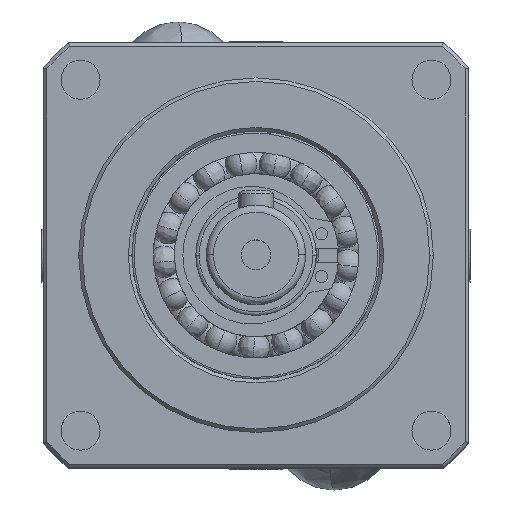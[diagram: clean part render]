
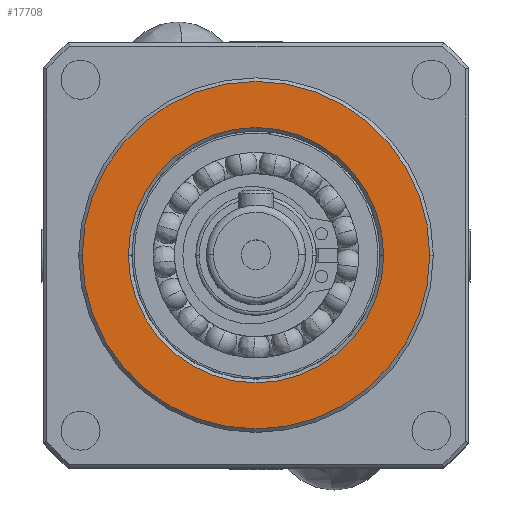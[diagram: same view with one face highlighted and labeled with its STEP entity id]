
A CAD part, top view. The second image highlights one B-rep face of the part: STEP entity #17708.
In plain terms, the highlighted planar face has unit normal (0, 0, 1) as drawn and (0, 0, -1) by its records, which use the part's own axes.
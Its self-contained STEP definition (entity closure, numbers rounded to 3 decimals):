
#2 = VERTEX_POINT ( 'NONE', #24236 ) ;
#3564 = DIRECTION ( 'NONE',  ( -1., 0., 0. ) ) ;
#4353 = FACE_BOUND ( 'NONE', #35909, .T. ) ;
#5049 = EDGE_CURVE ( 'NONE', #22761, #2, #25514, .T. ) ;
#5822 = EDGE_CURVE ( 'NONE', #13817, #32799, #35441, .T. ) ;
#6316 = EDGE_CURVE ( 'NONE', #2, #22761, #13284, .T. ) ;
#6882 = AXIS2_PLACEMENT_3D ( 'NONE', #15613, #15562, #15508 ) ;
#7810 = AXIS2_PLACEMENT_3D ( 'NONE', #41017, #40957, #40862 ) ;
#8039 = EDGE_CURVE ( 'NONE', #32799, #13817, #27168, .T. ) ;
#9744 = DIRECTION ( 'NONE',  ( -1., 0., 0. ) ) ;
#9747 = ORIENTED_EDGE ( 'NONE', *, *, #6316, .T. ) ;
#9759 = DIRECTION ( 'NONE',  ( 0., 0., 1. ) ) ;
#9853 = CARTESIAN_POINT ( 'NONE',  ( 0., 0., -3. ) ) ;
#10707 = AXIS2_PLACEMENT_3D ( 'NONE', #29173, #29138, #29130 ) ;
#13284 = CIRCLE ( 'NONE', #6882, 18. ) ;
#13306 = ORIENTED_EDGE ( 'NONE', *, *, #5049, .T. ) ;
#13817 = VERTEX_POINT ( 'NONE', #21426 ) ;
#15508 = DIRECTION ( 'NONE',  ( -1., 0., 0. ) ) ;
#15562 = DIRECTION ( 'NONE',  ( 0., 0., 1. ) ) ;
#15613 = CARTESIAN_POINT ( 'NONE',  ( 0., 0., -3. ) ) ;
#16516 = AXIS2_PLACEMENT_3D ( 'NONE', #9853, #9759, #9744 ) ;
#17708 = ADVANCED_FACE ( 'NONE', ( #21951, #4353 ), #45183, .T. ) ;
#21426 = CARTESIAN_POINT ( 'NONE',  ( 24.5, 0., -3. ) ) ;
#21951 = FACE_OUTER_BOUND ( 'NONE', #29276, .T. ) ;
#21972 = CARTESIAN_POINT ( 'NONE',  ( -24.5, 0., -3. ) ) ;
#22761 = VERTEX_POINT ( 'NONE', #42524 ) ;
#24236 = CARTESIAN_POINT ( 'NONE',  ( -18., 0., -3. ) ) ;
#24668 = DIRECTION ( 'NONE',  ( 0., 0., -1. ) ) ;
#25514 = CIRCLE ( 'NONE', #16516, 18. ) ;
#27168 = CIRCLE ( 'NONE', #7810, 24.5 ) ;
#28964 = ORIENTED_EDGE ( 'NONE', *, *, #5822, .F. ) ;
#29130 = DIRECTION ( 'NONE',  ( 1., 0., 0. ) ) ;
#29138 = DIRECTION ( 'NONE',  ( 0., 0., 1. ) ) ;
#29173 = CARTESIAN_POINT ( 'NONE',  ( 0., 0., -3. ) ) ;
#29276 = EDGE_LOOP ( 'NONE', ( #28964, #35021 ) ) ;
#32799 = VERTEX_POINT ( 'NONE', #21972 ) ;
#35021 = ORIENTED_EDGE ( 'NONE', *, *, #8039, .F. ) ;
#35441 = CIRCLE ( 'NONE', #10707, 24.5 ) ;
#35909 = EDGE_LOOP ( 'NONE', ( #9747, #13306 ) ) ;
#40862 = DIRECTION ( 'NONE',  ( 1., 0., 0. ) ) ;
#40957 = DIRECTION ( 'NONE',  ( 0., 0., 1. ) ) ;
#41017 = CARTESIAN_POINT ( 'NONE',  ( 0., 0., -3. ) ) ;
#42524 = CARTESIAN_POINT ( 'NONE',  ( 18., 0., -3. ) ) ;
#42711 = AXIS2_PLACEMENT_3D ( 'NONE', #45777, #24668, #3564 ) ;
#45183 = PLANE ( 'NONE',  #42711 ) ;
#45777 = CARTESIAN_POINT ( 'NONE',  ( 24.794, -24.794, -3. ) ) ;
